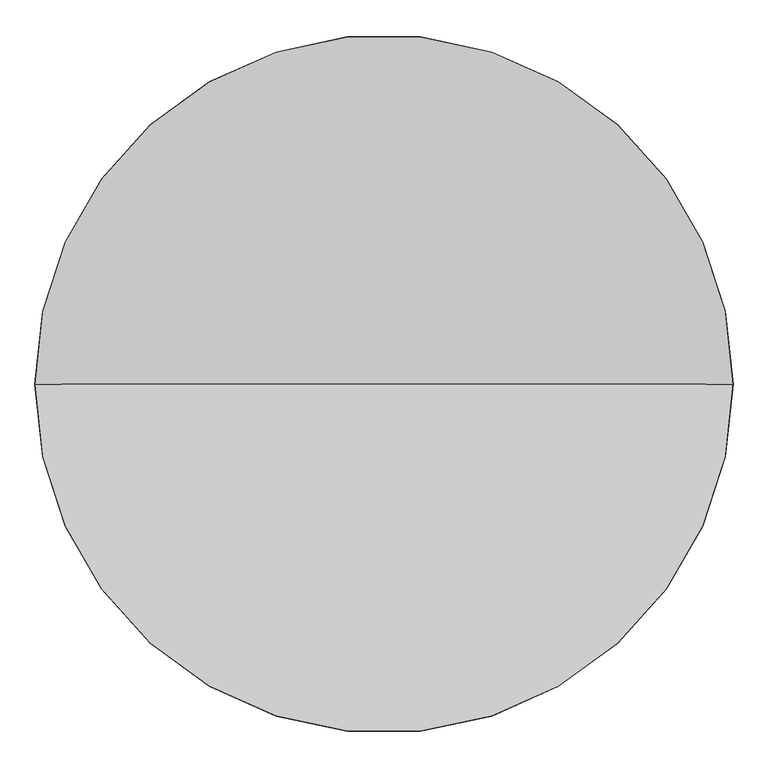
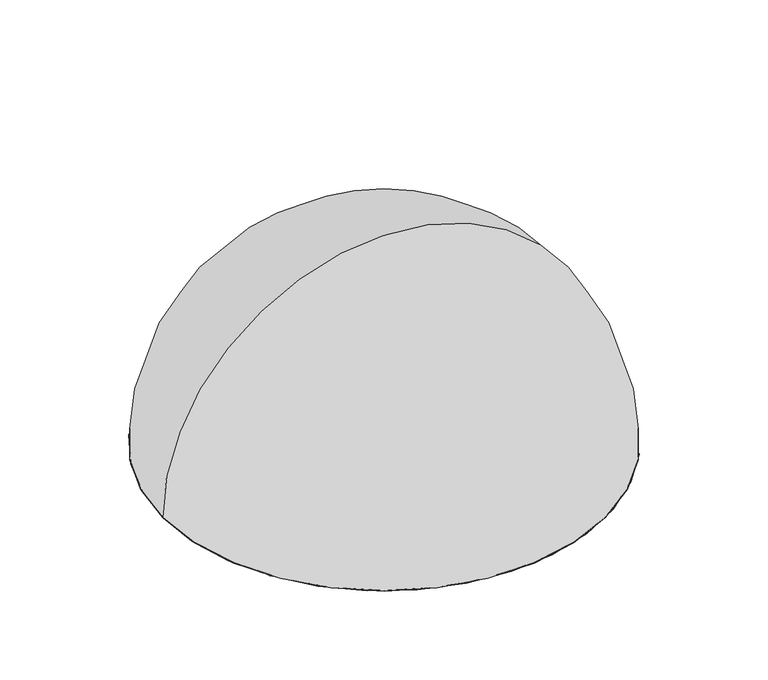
"""IFC4 building model written with IfcOpenShell, lengths in millimetres: alarm geometry, 4400I_Analog Multi Detector : 4400I-B_4479-B."""

from ifc_helpers import new_model, si_unit, point, frame, origin, origin_with_axes, origin_2d, place, context, project, spatial, polyline, circle_curve, ellipse_curve, trimmed, segment, composite_curve, outline, extrude, source, transform, mapped, element, save
from ifc_brep_helpers import plane_surface, cylinder_surface, revolved_surface, advanced_brep


def alarm_875a3fe6(model_context):
    return source(origin(), model_context, "Body", "SolidModel", [
        advanced_brep(
        [(-79.7972229, 5.5486659, 14.485042), (-79.7972229, 5.5486659, 25.4), (-78.2027771, 5.5486659, 25.4), (-78.2027771, 5.5486659, 14.485042), (-79.7972229, 10.5486659, 14.485042), (-79.7972229, 10.5486659, 25.4), (-78.2027771, 10.5486659, 25.4), (-78.2027771, 10.5486659, 14.485042), (-79.7972229, 15.5486659, 14.485042), (-79.7972229, 15.5486659, 25.4), (-78.2027771, 15.5486659, 25.4), (-78.2027771, 15.5486659, 14.485042), (-84.7972229, 3.0470544, 14.485042), (-84.7972229, 3.0470544, 25.4), (-83.2027771, 3.0470544, 25.4), (-83.2027771, 3.0470544, 14.485042), (-85.4222229, 8.9861659, 14.485042), (-85.4222229, 8.9861659, 25.4), (-83.8277771, 8.9861659, 25.4), (-83.8277771, 8.9861659, 14.485042), (-88.9577568, 5.450632, 14.485042), (-88.9577568, 5.450632, 25.4), (-87.363311, 5.450632, 25.4), (-87.363311, 5.450632, 14.485042), (-83.5688125, 14.8836329, 14.485042), (-83.5688125, 14.8836329, 25.4), (-85.0671014, 14.3383003, 25.4), (-85.0671014, 14.3383003, 14.485042), (-89.6051979, 11.3985241, 14.485042), (-89.6051979, 11.3985241, 25.4), (-88.3837816, 12.4234141, 25.4), (-88.3837816, 12.4234141, 14.485042), (-92.0669282, 8.4647482, 14.485042), (-92.0669282, 8.4647482, 25.4), (-92.8641511, 7.0839177, 25.4), (-92.8641511, 7.0839177, 14.485042), (-94.450883, 1.9148862, 14.485042), (-94.450883, 1.9148862, 25.4), (-94.1740104, 3.4851087, 25.4), (-94.1740104, 3.4851087, 14.485042), (-94.1740104, -3.4851087, 14.485042), (-94.1740104, -3.4851087, 25.4), (-94.450883, -1.9148862, 25.4), (-94.450883, -1.9148862, 14.485042), (-89.5486659, 0.7972229, 14.485042), (-89.5486659, 0.7972229, 25.4), (-90.3458887, 0.0, 25.4), (-89.5486659, -0.7972229, 25.4), (-89.5486659, -0.7972229, 14.485042), (-90.3458887, 0.0, 14.485042), (-88.751443, 0.0, 14.485042), (-88.751443, 0.0, 25.4), (-88.534024, -4.5839177, 14.485042), (-88.534024, -4.5839177, 25.4), (-87.7368012, -5.9647482, 25.4), (-87.7368012, -5.9647482, 14.485042), (-83.4066742, -3.4647482, 14.485042), (-83.4066742, -3.4647482, 25.4), (-84.203897, -2.0839177, 25.4), (-84.203897, -2.0839177, 14.485042), (-73.796103, 2.0839177, 14.485042), (-73.796103, 2.0839177, 25.4), (-74.5933258, 3.4647482, 25.4), (-74.5933258, 3.4647482, 14.485042), (-73.0352518, 8.7368012, 14.485042), (-73.0352518, 8.7368012, 25.4), (-74.4160823, 9.534024, 25.4), (-74.4160823, 9.534024, 14.485042), (-72.9328986, 14.3383003, 14.485042), (-72.9328986, 14.3383003, 25.4), (-74.4311875, 14.8836329, 25.4), (-74.4311875, 14.8836329, 14.485042), (-69.6162184, 12.4234141, 14.485042), (-69.6162184, 12.4234141, 25.4), (-68.3948021, 11.3985241, 25.4), (-68.3948021, 11.3985241, 14.485042), (-65.9330718, 8.4647482, 14.485042), (-65.9330718, 8.4647482, 25.4), (-65.1358489, 7.0839177, 25.4), (-65.1358489, 7.0839177, 14.485042), (-69.465976, 4.5839177, 14.485042), (-69.465976, 4.5839177, 25.4), (-70.2631988, 5.9647482, 25.4), (-70.2631988, 5.9647482, 14.485042), (-63.549117, 1.9148862, 14.485042), (-63.549117, 1.9148862, 25.4), (-63.8259896, 3.4851087, 25.4), (-63.8259896, 3.4851087, 14.485042), (-63.8259896, -3.4851087, 14.485042), (-63.8259896, -3.4851087, 25.4), (-63.549117, -1.9148862, 25.4), (-63.549117, -1.9148862, 14.485042), (-68.4513341, 0.7972229, 14.485042), (-68.4513341, 0.7972229, 25.4), (-69.248557, 0.0, 25.4), (-68.4513341, -0.7972229, 25.4), (-68.4513341, -0.7972229, 14.485042), (-69.248557, 0.0, 14.485042), (-67.6541113, 0.0, 14.485042), (-67.6541113, 0.0, 25.4), (-74.5933258, -3.4647482, 14.485042), (-74.5933258, -3.4647482, 25.4), (-73.796103, -2.0839177, 25.4), (-73.796103, -2.0839177, 14.485042), (-78.2027771, -5.5486659, 14.485042), (-78.2027771, -5.5486659, 25.4), (-79.7972229, -5.5486659, 25.4), (-79.7972229, -5.5486659, 14.485042), (-78.2027771, -10.5486659, 14.485042), (-78.2027771, -10.5486659, 25.4), (-79.7972229, -10.5486659, 25.4), (-79.7972229, -10.5486659, 14.485042), (-74.4160823, -9.534024, 14.485042), (-74.4160823, -9.534024, 25.4), (-73.0352518, -8.7368012, 25.4), (-73.0352518, -8.7368012, 14.485042), (-70.2631988, -5.9647482, 14.485042), (-70.2631988, -5.9647482, 25.4), (-69.465976, -4.5839177, 25.4), (-69.465976, -4.5839177, 14.485042), (-65.9330718, -8.4647482, 14.485042), (-65.9330718, -8.4647482, 25.4), (-65.1358489, -7.0839177, 25.4), (-65.1358489, -7.0839177, 14.485042), (-68.3948021, -11.3985241, 14.485042), (-68.3948021, -11.3985241, 25.4), (-69.6162184, -12.4234141, 25.4), (-69.6162184, -12.4234141, 14.485042), (-72.9328986, -14.3383003, 14.485042), (-72.9328986, -14.3383003, 25.4), (-74.4311875, -14.8836329, 25.4), (-74.4311875, -14.8836329, 14.485042), (-79.7972229, -15.5486659, 14.485042), (-79.7972229, -15.5486659, 25.4), (-78.2027771, -15.5486659, 25.4), (-78.2027771, -15.5486659, 14.485042), (-83.5688125, -14.8836329, 14.485042), (-83.5688125, -14.8836329, 25.4), (-85.0671014, -14.3383003, 25.4), (-85.0671014, -14.3383003, 14.485042), (-88.3837816, -12.4234141, 14.485042), (-88.3837816, -12.4234141, 25.4), (-89.6051979, -11.3985241, 25.4), (-89.6051979, -11.3985241, 14.485042), (-83.5839177, -9.534024, 14.485042), (-83.5839177, -9.534024, 25.4), (-84.9647482, -8.7368012, 25.4), (-84.9647482, -8.7368012, 14.485042), (-92.8641511, -7.0839177, 14.485042), (-92.8641511, -7.0839177, 25.4), (-92.0669282, -8.4647482, 25.4), (-92.0669282, -8.4647482, 14.485042), (-108.6698498, 0.0, 16.3482569), (-49.3301502, 0.0, 16.3482569), (-49.0, 0.0, 15.6238085), (-109.0, 0.0, 15.6238085), (-106.6202954, 0.0, 18.1299074), (-51.3797046, 0.0, 18.1299074), (-106.2752145, 0.0, 18.8871183), (-51.7247855, 0.0, 18.8871183), (-106.2752145, 0.0, 22.8474655), (-51.7247855, 0.0, 22.8474655), (-109.0, 0.0, 14.485042), (-49.0, 0.0, 14.485042), (-79.0, 0.0, 14.485042), (-105.8495388, 0.0, 23.4500663), (-52.1504612, 0.0, 23.4500663), (-96.200061, 0.0, 25.4), (-61.799939, 0.0, 25.4), (-79.0, 0.0, 25.4)],
        [
            (0, 1),
            (1, 2, circle_curve(frame((-79.0, 5.5486659, 25.4), z_axis=(0.0, 0.0, 1.0), x_axis=(1.0, 0.0, 0.0)), 0.7972229)),
            (2, 3),
            (3, 0, circle_curve(frame((-79.0, 5.5486659, 14.485042), z_axis=(0.0, 0.0, -1.0), x_axis=(1.0, 0.0, 0.0)), 0.7972229)),
            (0, 3, circle_curve(frame((-79.0, 5.5486659, 14.485042), z_axis=(0.0, 0.0, -1.0), x_axis=(1.0, 0.0, 0.0)), 0.7972229)),
            (2, 1, circle_curve(frame((-79.0, 5.5486659, 25.4), z_axis=(0.0, 0.0, 1.0), x_axis=(1.0, 0.0, 0.0)), 0.7972229)),
            (4, 5),
            (5, 6, circle_curve(frame((-79.0, 10.5486659, 25.4), z_axis=(0.0, 0.0, 1.0), x_axis=(1.0, 0.0, 0.0)), 0.7972229)),
            (6, 7),
            (7, 4, circle_curve(frame((-79.0, 10.5486659, 14.485042), z_axis=(0.0, 0.0, -1.0), x_axis=(1.0, 0.0, 0.0)), 0.7972229)),
            (4, 7, circle_curve(frame((-79.0, 10.5486659, 14.485042), z_axis=(0.0, 0.0, -1.0), x_axis=(1.0, 0.0, 0.0)), 0.7972229)),
            (6, 5, circle_curve(frame((-79.0, 10.5486659, 25.4), z_axis=(0.0, 0.0, 1.0), x_axis=(1.0, 0.0, 0.0)), 0.7972229)),
            (8, 9),
            (9, 10, circle_curve(frame((-79.0, 15.5486659, 25.4), z_axis=(0.0, 0.0, 1.0), x_axis=(1.0, 0.0, 0.0)), 0.7972229)),
            (10, 11),
            (11, 8, circle_curve(frame((-79.0, 15.5486659, 14.485042), z_axis=(0.0, 0.0, -1.0), x_axis=(1.0, 0.0, 0.0)), 0.7972229)),
            (8, 11, circle_curve(frame((-79.0, 15.5486659, 14.485042), z_axis=(0.0, 0.0, -1.0), x_axis=(1.0, 0.0, 0.0)), 0.7972229)),
            (10, 9, circle_curve(frame((-79.0, 15.5486659, 25.4), z_axis=(0.0, 0.0, 1.0), x_axis=(1.0, 0.0, 0.0)), 0.7972229)),
            (12, 13),
            (13, 14, circle_curve(frame((-84.0, 3.0470544, 25.4), z_axis=(0.0, 0.0, 1.0), x_axis=(1.0, 0.0, 0.0)), 0.7972229)),
            (14, 15),
            (15, 12, circle_curve(frame((-84.0, 3.0470544, 14.485042), z_axis=(0.0, 0.0, -1.0), x_axis=(1.0, 0.0, 0.0)), 0.7972229)),
            (12, 15, circle_curve(frame((-84.0, 3.0470544, 14.485042), z_axis=(0.0, 0.0, -1.0), x_axis=(1.0, 0.0, 0.0)), 0.7972229)),
            (14, 13, circle_curve(frame((-84.0, 3.0470544, 25.4), z_axis=(0.0, 0.0, 1.0), x_axis=(1.0, 0.0, 0.0)), 0.7972229)),
            (16, 17),
            (17, 18, circle_curve(frame((-84.625, 8.9861659, 25.4), z_axis=(0.0, 0.0, 1.0), x_axis=(1.0, 0.0, 0.0)), 0.7972229)),
            (18, 19),
            (19, 16, circle_curve(frame((-84.625, 8.9861659, 14.485042), z_axis=(0.0, 0.0, -1.0), x_axis=(1.0, 0.0, 0.0)), 0.7972229)),
            (16, 19, circle_curve(frame((-84.625, 8.9861659, 14.485042), z_axis=(0.0, 0.0, -1.0), x_axis=(1.0, 0.0, 0.0)), 0.7972229)),
            (18, 17, circle_curve(frame((-84.625, 8.9861659, 25.4), z_axis=(0.0, 0.0, 1.0), x_axis=(1.0, 0.0, 0.0)), 0.7972229)),
            (20, 21),
            (21, 22, circle_curve(frame((-88.1605339, 5.450632, 25.4), z_axis=(0.0, 0.0, 1.0), x_axis=(1.0, 0.0, 0.0)), 0.7972229)),
            (22, 23),
            (23, 20, circle_curve(frame((-88.1605339, 5.450632, 14.485042), z_axis=(0.0, 0.0, -1.0), x_axis=(1.0, 0.0, 0.0)), 0.7972229)),
            (20, 23, circle_curve(frame((-88.1605339, 5.450632, 14.485042), z_axis=(0.0, 0.0, -1.0), x_axis=(1.0, 0.0, 0.0)), 0.7972229)),
            (22, 21, circle_curve(frame((-88.1605339, 5.450632, 25.4), z_axis=(0.0, 0.0, 1.0), x_axis=(1.0, 0.0, 0.0)), 0.7972229)),
            (24, 25),
            (25, 26, circle_curve(frame((-84.3179569, 14.6109666, 25.4), z_axis=(0.0, 0.0, 1.0), x_axis=(1.0, 0.0, 0.0)), 0.7972229)),
            (26, 27),
            (27, 24, circle_curve(frame((-84.3179569, 14.6109666, 14.485042), z_axis=(0.0, 0.0, -1.0), x_axis=(1.0, 0.0, 0.0)), 0.7972229)),
            (24, 27, circle_curve(frame((-84.3179569, 14.6109666, 14.485042), z_axis=(0.0, 0.0, -1.0), x_axis=(1.0, 0.0, 0.0)), 0.7972229)),
            (26, 25, circle_curve(frame((-84.3179569, 14.6109666, 25.4), z_axis=(0.0, 0.0, 1.0), x_axis=(1.0, 0.0, 0.0)), 0.7972229)),
            (28, 29),
            (29, 30, circle_curve(frame((-88.9944898, 11.9109691, 25.4), z_axis=(0.0, 0.0, 1.0), x_axis=(1.0, 0.0, 0.0)), 0.7972229)),
            (30, 31),
            (31, 28, circle_curve(frame((-88.9944898, 11.9109691, 14.485042), z_axis=(0.0, 0.0, -1.0), x_axis=(1.0, 0.0, 0.0)), 0.7972229)),
            (28, 31, circle_curve(frame((-88.9944898, 11.9109691, 14.485042), z_axis=(0.0, 0.0, -1.0), x_axis=(1.0, 0.0, 0.0)), 0.7972229)),
            (30, 29, circle_curve(frame((-88.9944898, 11.9109691, 25.4), z_axis=(0.0, 0.0, 1.0), x_axis=(1.0, 0.0, 0.0)), 0.7972229)),
            (32, 33),
            (33, 34, circle_curve(frame((-92.4655396, 7.7743329, 25.4), z_axis=(0.0, 0.0, 1.0), x_axis=(1.0, 0.0, 0.0)), 0.7972229)),
            (34, 35),
            (35, 32, circle_curve(frame((-92.4655396, 7.7743329, 14.485042), z_axis=(0.0, 0.0, -1.0), x_axis=(1.0, 0.0, 0.0)), 0.7972229)),
            (32, 35, circle_curve(frame((-92.4655396, 7.7743329, 14.485042), z_axis=(0.0, 0.0, -1.0), x_axis=(1.0, 0.0, 0.0)), 0.7972229)),
            (34, 33, circle_curve(frame((-92.4655396, 7.7743329, 25.4), z_axis=(0.0, 0.0, 1.0), x_axis=(1.0, 0.0, 0.0)), 0.7972229)),
            (36, 37),
            (37, 38, circle_curve(frame((-94.3124467, 2.6999975, 25.4), z_axis=(0.0, 0.0, 1.0), x_axis=(1.0, 0.0, 0.0)), 0.7972229)),
            (38, 39),
            (39, 36, circle_curve(frame((-94.3124467, 2.6999975, 14.485042), z_axis=(0.0, 0.0, -1.0), x_axis=(1.0, 0.0, 0.0)), 0.7972229)),
            (36, 39, circle_curve(frame((-94.3124467, 2.6999975, 14.485042), z_axis=(0.0, 0.0, -1.0), x_axis=(1.0, 0.0, 0.0)), 0.7972229)),
            (38, 37, circle_curve(frame((-94.3124467, 2.6999975, 25.4), z_axis=(0.0, 0.0, 1.0), x_axis=(1.0, 0.0, 0.0)), 0.7972229)),
            (40, 41),
            (41, 42, circle_curve(frame((-94.3124467, -2.6999975, 25.4), z_axis=(0.0, 0.0, 1.0), x_axis=(1.0, 0.0, 0.0)), 0.7972229)),
            (42, 43),
            (43, 40, circle_curve(frame((-94.3124467, -2.6999975, 14.485042), z_axis=(0.0, 0.0, -1.0), x_axis=(1.0, 0.0, 0.0)), 0.7972229)),
            (40, 43, circle_curve(frame((-94.3124467, -2.6999975, 14.485042), z_axis=(0.0, 0.0, -1.0), x_axis=(1.0, 0.0, 0.0)), 0.7972229)),
            (42, 41, circle_curve(frame((-94.3124467, -2.6999975, 25.4), z_axis=(0.0, 0.0, 1.0), x_axis=(1.0, 0.0, 0.0)), 0.7972229)),
            (44, 45),
            (45, 46, circle_curve(frame((-89.5486659, 0.0, 25.4), z_axis=(0.0, 0.0, 1.0), x_axis=(1.0, 0.0, 0.0)), 0.7972229)),
            (46, 47, circle_curve(frame((-89.5486659, 0.0, 25.4), z_axis=(0.0, 0.0, 1.0), x_axis=(1.0, 0.0, 0.0)), 0.7972229)),
            (47, 48),
            (48, 49, circle_curve(frame((-89.5486659, 0.0, 14.485042), z_axis=(0.0, 0.0, -1.0), x_axis=(1.0, 0.0, 0.0)), 0.7972229)),
            (49, 44, circle_curve(frame((-89.5486659, 0.0, 14.485042), z_axis=(0.0, 0.0, -1.0), x_axis=(1.0, 0.0, 0.0)), 0.7972229)),
            (44, 50, circle_curve(frame((-89.5486659, 0.0, 14.485042), z_axis=(0.0, 0.0, -1.0), x_axis=(1.0, 0.0, 0.0)), 0.7972229)),
            (50, 48, circle_curve(frame((-89.5486659, 0.0, 14.485042), z_axis=(0.0, 0.0, -1.0), x_axis=(1.0, 0.0, 0.0)), 0.7972229)),
            (47, 51, circle_curve(frame((-89.5486659, 0.0, 25.4), z_axis=(0.0, 0.0, 1.0), x_axis=(1.0, 0.0, 0.0)), 0.7972229)),
            (51, 45, circle_curve(frame((-89.5486659, 0.0, 25.4), z_axis=(0.0, 0.0, 1.0), x_axis=(1.0, 0.0, 0.0)), 0.7972229)),
            (52, 53),
            (53, 54, circle_curve(frame((-88.1354126, -5.2743329, 25.4), z_axis=(0.0, 0.0, 1.0), x_axis=(1.0, 0.0, 0.0)), 0.7972229)),
            (54, 55),
            (55, 52, circle_curve(frame((-88.1354126, -5.2743329, 14.485042), z_axis=(0.0, 0.0, -1.0), x_axis=(1.0, 0.0, 0.0)), 0.7972229)),
            (52, 55, circle_curve(frame((-88.1354126, -5.2743329, 14.485042), z_axis=(0.0, 0.0, -1.0), x_axis=(1.0, 0.0, 0.0)), 0.7972229)),
            (54, 53, circle_curve(frame((-88.1354126, -5.2743329, 25.4), z_axis=(0.0, 0.0, 1.0), x_axis=(1.0, 0.0, 0.0)), 0.7972229)),
            (56, 57),
            (57, 58, circle_curve(frame((-83.8052856, -2.7743329, 25.4), z_axis=(0.0, 0.0, 1.0), x_axis=(1.0, 0.0, 0.0)), 0.7972229)),
            (58, 59),
            (59, 56, circle_curve(frame((-83.8052856, -2.7743329, 14.485042), z_axis=(0.0, 0.0, -1.0), x_axis=(1.0, 0.0, 0.0)), 0.7972229)),
            (56, 59, circle_curve(frame((-83.8052856, -2.7743329, 14.485042), z_axis=(0.0, 0.0, -1.0), x_axis=(1.0, 0.0, 0.0)), 0.7972229)),
            (58, 57, circle_curve(frame((-83.8052856, -2.7743329, 25.4), z_axis=(0.0, 0.0, 1.0), x_axis=(1.0, 0.0, 0.0)), 0.7972229)),
            (60, 61),
            (61, 62, circle_curve(frame((-74.1947144, 2.7743329, 25.4), z_axis=(0.0, 0.0, 1.0), x_axis=(1.0, 0.0, 0.0)), 0.7972229)),
            (62, 63),
            (63, 60, circle_curve(frame((-74.1947144, 2.7743329, 14.485042), z_axis=(0.0, 0.0, -1.0), x_axis=(1.0, 0.0, 0.0)), 0.7972229)),
            (60, 63, circle_curve(frame((-74.1947144, 2.7743329, 14.485042), z_axis=(0.0, 0.0, -1.0), x_axis=(1.0, 0.0, 0.0)), 0.7972229)),
            (62, 61, circle_curve(frame((-74.1947144, 2.7743329, 25.4), z_axis=(0.0, 0.0, 1.0), x_axis=(1.0, 0.0, 0.0)), 0.7972229)),
            (64, 65),
            (65, 66, circle_curve(frame((-73.7256671, 9.1354126, 25.4), z_axis=(0.0, 0.0, 1.0), x_axis=(1.0, 0.0, 0.0)), 0.7972229)),
            (66, 67),
            (67, 64, circle_curve(frame((-73.7256671, 9.1354126, 14.485042), z_axis=(0.0, 0.0, -1.0), x_axis=(1.0, 0.0, 0.0)), 0.7972229)),
            (64, 67, circle_curve(frame((-73.7256671, 9.1354126, 14.485042), z_axis=(0.0, 0.0, -1.0), x_axis=(1.0, 0.0, 0.0)), 0.7972229)),
            (66, 65, circle_curve(frame((-73.7256671, 9.1354126, 25.4), z_axis=(0.0, 0.0, 1.0), x_axis=(1.0, 0.0, 0.0)), 0.7972229)),
            (68, 69),
            (69, 70, circle_curve(frame((-73.6820431, 14.6109666, 25.4), z_axis=(0.0, 0.0, 1.0), x_axis=(1.0, 0.0, 0.0)), 0.7972229)),
            (70, 71),
            (71, 68, circle_curve(frame((-73.6820431, 14.6109666, 14.485042), z_axis=(0.0, 0.0, -1.0), x_axis=(1.0, 0.0, 0.0)), 0.7972229)),
            (68, 71, circle_curve(frame((-73.6820431, 14.6109666, 14.485042), z_axis=(0.0, 0.0, -1.0), x_axis=(1.0, 0.0, 0.0)), 0.7972229)),
            (70, 69, circle_curve(frame((-73.6820431, 14.6109666, 25.4), z_axis=(0.0, 0.0, 1.0), x_axis=(1.0, 0.0, 0.0)), 0.7972229)),
            (72, 73),
            (73, 74, circle_curve(frame((-69.0055102, 11.9109691, 25.4), z_axis=(0.0, 0.0, 1.0), x_axis=(1.0, 0.0, 0.0)), 0.7972229)),
            (74, 75),
            (75, 72, circle_curve(frame((-69.0055102, 11.9109691, 14.485042), z_axis=(0.0, 0.0, -1.0), x_axis=(1.0, 0.0, 0.0)), 0.7972229)),
            (72, 75, circle_curve(frame((-69.0055102, 11.9109691, 14.485042), z_axis=(0.0, 0.0, -1.0), x_axis=(1.0, 0.0, 0.0)), 0.7972229)),
            (74, 73, circle_curve(frame((-69.0055102, 11.9109691, 25.4), z_axis=(0.0, 0.0, 1.0), x_axis=(1.0, 0.0, 0.0)), 0.7972229)),
            (76, 77),
            (77, 78, circle_curve(frame((-65.5344604, 7.7743329, 25.4), z_axis=(0.0, 0.0, 1.0), x_axis=(1.0, 0.0, 0.0)), 0.7972229)),
            (78, 79),
            (79, 76, circle_curve(frame((-65.5344604, 7.7743329, 14.485042), z_axis=(0.0, 0.0, -1.0), x_axis=(1.0, 0.0, 0.0)), 0.7972229)),
            (76, 79, circle_curve(frame((-65.5344604, 7.7743329, 14.485042), z_axis=(0.0, 0.0, -1.0), x_axis=(1.0, 0.0, 0.0)), 0.7972229)),
            (78, 77, circle_curve(frame((-65.5344604, 7.7743329, 25.4), z_axis=(0.0, 0.0, 1.0), x_axis=(1.0, 0.0, 0.0)), 0.7972229)),
            (80, 81),
            (81, 82, circle_curve(frame((-69.8645874, 5.2743329, 25.4), z_axis=(0.0, 0.0, 1.0), x_axis=(1.0, 0.0, 0.0)), 0.7972229)),
            (82, 83),
            (83, 80, circle_curve(frame((-69.8645874, 5.2743329, 14.485042), z_axis=(0.0, 0.0, -1.0), x_axis=(1.0, 0.0, 0.0)), 0.7972229)),
            (80, 83, circle_curve(frame((-69.8645874, 5.2743329, 14.485042), z_axis=(0.0, 0.0, -1.0), x_axis=(1.0, 0.0, 0.0)), 0.7972229)),
            (82, 81, circle_curve(frame((-69.8645874, 5.2743329, 25.4), z_axis=(0.0, 0.0, 1.0), x_axis=(1.0, 0.0, 0.0)), 0.7972229)),
            (84, 85),
            (85, 86, circle_curve(frame((-63.6875533, 2.6999975, 25.4), z_axis=(0.0, 0.0, 1.0), x_axis=(1.0, 0.0, 0.0)), 0.7972229)),
            (86, 87),
            (87, 84, circle_curve(frame((-63.6875533, 2.6999975, 14.485042), z_axis=(0.0, 0.0, -1.0), x_axis=(1.0, 0.0, 0.0)), 0.7972229)),
            (84, 87, circle_curve(frame((-63.6875533, 2.6999975, 14.485042), z_axis=(0.0, 0.0, -1.0), x_axis=(1.0, 0.0, 0.0)), 0.7972229)),
            (86, 85, circle_curve(frame((-63.6875533, 2.6999975, 25.4), z_axis=(0.0, 0.0, 1.0), x_axis=(1.0, 0.0, 0.0)), 0.7972229)),
            (88, 89),
            (89, 90, circle_curve(frame((-63.6875533, -2.6999975, 25.4), z_axis=(0.0, 0.0, 1.0), x_axis=(1.0, 0.0, 0.0)), 0.7972229)),
            (90, 91),
            (91, 88, circle_curve(frame((-63.6875533, -2.6999975, 14.485042), z_axis=(0.0, 0.0, -1.0), x_axis=(1.0, 0.0, 0.0)), 0.7972229)),
            (88, 91, circle_curve(frame((-63.6875533, -2.6999975, 14.485042), z_axis=(0.0, 0.0, -1.0), x_axis=(1.0, 0.0, 0.0)), 0.7972229)),
            (90, 89, circle_curve(frame((-63.6875533, -2.6999975, 25.4), z_axis=(0.0, 0.0, 1.0), x_axis=(1.0, 0.0, 0.0)), 0.7972229)),
            (92, 93),
            (93, 94, circle_curve(frame((-68.4513341, 0.0, 25.4), z_axis=(0.0, 0.0, 1.0), x_axis=(1.0, 0.0, 0.0)), 0.7972229)),
            (94, 95, circle_curve(frame((-68.4513341, 0.0, 25.4), z_axis=(0.0, 0.0, 1.0), x_axis=(1.0, 0.0, 0.0)), 0.7972229)),
            (95, 96),
            (96, 97, circle_curve(frame((-68.4513341, 0.0, 14.485042), z_axis=(0.0, 0.0, -1.0), x_axis=(1.0, 0.0, 0.0)), 0.7972229)),
            (97, 92, circle_curve(frame((-68.4513341, 0.0, 14.485042), z_axis=(0.0, 0.0, -1.0), x_axis=(1.0, 0.0, 0.0)), 0.7972229)),
            (92, 98, circle_curve(frame((-68.4513341, 0.0, 14.485042), z_axis=(0.0, 0.0, -1.0), x_axis=(1.0, 0.0, 0.0)), 0.7972229)),
            (98, 96, circle_curve(frame((-68.4513341, 0.0, 14.485042), z_axis=(0.0, 0.0, -1.0), x_axis=(1.0, 0.0, 0.0)), 0.7972229)),
            (95, 99, circle_curve(frame((-68.4513341, 0.0, 25.4), z_axis=(0.0, 0.0, 1.0), x_axis=(1.0, 0.0, 0.0)), 0.7972229)),
            (99, 93, circle_curve(frame((-68.4513341, 0.0, 25.4), z_axis=(0.0, 0.0, 1.0), x_axis=(1.0, 0.0, 0.0)), 0.7972229)),
            (100, 101),
            (101, 102, circle_curve(frame((-74.1947144, -2.7743329, 25.4), z_axis=(0.0, 0.0, 1.0), x_axis=(1.0, 0.0, 0.0)), 0.7972229)),
            (102, 103),
            (103, 100, circle_curve(frame((-74.1947144, -2.7743329, 14.485042), z_axis=(0.0, 0.0, -1.0), x_axis=(1.0, 0.0, 0.0)), 0.7972229)),
            (100, 103, circle_curve(frame((-74.1947144, -2.7743329, 14.485042), z_axis=(0.0, 0.0, -1.0), x_axis=(1.0, 0.0, 0.0)), 0.7972229)),
            (102, 101, circle_curve(frame((-74.1947144, -2.7743329, 25.4), z_axis=(0.0, 0.0, 1.0), x_axis=(1.0, 0.0, 0.0)), 0.7972229)),
            (104, 105),
            (105, 106, circle_curve(frame((-79.0, -5.5486659, 25.4), z_axis=(0.0, 0.0, 1.0), x_axis=(1.0, 0.0, 0.0)), 0.7972229)),
            (106, 107),
            (107, 104, circle_curve(frame((-79.0, -5.5486659, 14.485042), z_axis=(0.0, 0.0, -1.0), x_axis=(1.0, 0.0, 0.0)), 0.7972229)),
            (104, 107, circle_curve(frame((-79.0, -5.5486659, 14.485042), z_axis=(0.0, 0.0, -1.0), x_axis=(1.0, 0.0, 0.0)), 0.7972229)),
            (106, 105, circle_curve(frame((-79.0, -5.5486659, 25.4), z_axis=(0.0, 0.0, 1.0), x_axis=(1.0, 0.0, 0.0)), 0.7972229)),
            (108, 109),
            (109, 110, circle_curve(frame((-79.0, -10.5486659, 25.4), z_axis=(0.0, 0.0, 1.0), x_axis=(1.0, 0.0, 0.0)), 0.7972229)),
            (110, 111),
            (111, 108, circle_curve(frame((-79.0, -10.5486659, 14.485042), z_axis=(0.0, 0.0, -1.0), x_axis=(1.0, 0.0, 0.0)), 0.7972229)),
            (108, 111, circle_curve(frame((-79.0, -10.5486659, 14.485042), z_axis=(0.0, 0.0, -1.0), x_axis=(1.0, 0.0, 0.0)), 0.7972229)),
            (110, 109, circle_curve(frame((-79.0, -10.5486659, 25.4), z_axis=(0.0, 0.0, 1.0), x_axis=(1.0, 0.0, 0.0)), 0.7972229)),
            (112, 113),
            (113, 114, circle_curve(frame((-73.7256671, -9.1354126, 25.4), z_axis=(0.0, 0.0, 1.0), x_axis=(1.0, 0.0, 0.0)), 0.7972229)),
            (114, 115),
            (115, 112, circle_curve(frame((-73.7256671, -9.1354126, 14.485042), z_axis=(0.0, 0.0, -1.0), x_axis=(1.0, 0.0, 0.0)), 0.7972229)),
            (112, 115, circle_curve(frame((-73.7256671, -9.1354126, 14.485042), z_axis=(0.0, 0.0, -1.0), x_axis=(1.0, 0.0, 0.0)), 0.7972229)),
            (114, 113, circle_curve(frame((-73.7256671, -9.1354126, 25.4), z_axis=(0.0, 0.0, 1.0), x_axis=(1.0, 0.0, 0.0)), 0.7972229)),
            (116, 117),
            (117, 118, circle_curve(frame((-69.8645874, -5.2743329, 25.4), z_axis=(0.0, 0.0, 1.0), x_axis=(1.0, 0.0, 0.0)), 0.7972229)),
            (118, 119),
            (119, 116, circle_curve(frame((-69.8645874, -5.2743329, 14.485042), z_axis=(0.0, 0.0, -1.0), x_axis=(1.0, 0.0, 0.0)), 0.7972229)),
            (116, 119, circle_curve(frame((-69.8645874, -5.2743329, 14.485042), z_axis=(0.0, 0.0, -1.0), x_axis=(1.0, 0.0, 0.0)), 0.7972229)),
            (118, 117, circle_curve(frame((-69.8645874, -5.2743329, 25.4), z_axis=(0.0, 0.0, 1.0), x_axis=(1.0, 0.0, 0.0)), 0.7972229)),
            (120, 121),
            (121, 122, circle_curve(frame((-65.5344604, -7.7743329, 25.4), z_axis=(0.0, 0.0, 1.0), x_axis=(1.0, 0.0, 0.0)), 0.7972229)),
            (122, 123),
            (123, 120, circle_curve(frame((-65.5344604, -7.7743329, 14.485042), z_axis=(0.0, 0.0, -1.0), x_axis=(1.0, 0.0, 0.0)), 0.7972229)),
            (120, 123, circle_curve(frame((-65.5344604, -7.7743329, 14.485042), z_axis=(0.0, 0.0, -1.0), x_axis=(1.0, 0.0, 0.0)), 0.7972229)),
            (122, 121, circle_curve(frame((-65.5344604, -7.7743329, 25.4), z_axis=(0.0, 0.0, 1.0), x_axis=(1.0, 0.0, 0.0)), 0.7972229)),
            (124, 125),
            (125, 126, circle_curve(frame((-69.0055102, -11.9109691, 25.4), z_axis=(0.0, 0.0, 1.0), x_axis=(1.0, 0.0, 0.0)), 0.7972229)),
            (126, 127),
            (127, 124, circle_curve(frame((-69.0055102, -11.9109691, 14.485042), z_axis=(0.0, 0.0, -1.0), x_axis=(1.0, 0.0, 0.0)), 0.7972229)),
            (124, 127, circle_curve(frame((-69.0055102, -11.9109691, 14.485042), z_axis=(0.0, 0.0, -1.0), x_axis=(1.0, 0.0, 0.0)), 0.7972229)),
            (126, 125, circle_curve(frame((-69.0055102, -11.9109691, 25.4), z_axis=(0.0, 0.0, 1.0), x_axis=(1.0, 0.0, 0.0)), 0.7972229)),
            (128, 129),
            (129, 130, circle_curve(frame((-73.6820431, -14.6109666, 25.4), z_axis=(0.0, 0.0, 1.0), x_axis=(1.0, 0.0, 0.0)), 0.7972229)),
            (130, 131),
            (131, 128, circle_curve(frame((-73.6820431, -14.6109666, 14.485042), z_axis=(0.0, 0.0, -1.0), x_axis=(1.0, 0.0, 0.0)), 0.7972229)),
            (128, 131, circle_curve(frame((-73.6820431, -14.6109666, 14.485042), z_axis=(0.0, 0.0, -1.0), x_axis=(1.0, 0.0, 0.0)), 0.7972229)),
            (130, 129, circle_curve(frame((-73.6820431, -14.6109666, 25.4), z_axis=(0.0, 0.0, 1.0), x_axis=(1.0, 0.0, 0.0)), 0.7972229)),
            (132, 133),
            (133, 134, circle_curve(frame((-79.0, -15.5486659, 25.4), z_axis=(0.0, 0.0, 1.0), x_axis=(1.0, 0.0, 0.0)), 0.7972229)),
            (134, 135),
            (135, 132, circle_curve(frame((-79.0, -15.5486659, 14.485042), z_axis=(0.0, 0.0, -1.0), x_axis=(1.0, 0.0, 0.0)), 0.7972229)),
            (132, 135, circle_curve(frame((-79.0, -15.5486659, 14.485042), z_axis=(0.0, 0.0, -1.0), x_axis=(1.0, 0.0, 0.0)), 0.7972229)),
            (134, 133, circle_curve(frame((-79.0, -15.5486659, 25.4), z_axis=(0.0, 0.0, 1.0), x_axis=(1.0, 0.0, 0.0)), 0.7972229)),
            (136, 137),
            (137, 138, circle_curve(frame((-84.3179569, -14.6109666, 25.4), z_axis=(0.0, 0.0, 1.0), x_axis=(1.0, 0.0, 0.0)), 0.7972229)),
            (138, 139),
            (139, 136, circle_curve(frame((-84.3179569, -14.6109666, 14.485042), z_axis=(0.0, 0.0, -1.0), x_axis=(1.0, 0.0, 0.0)), 0.7972229)),
            (136, 139, circle_curve(frame((-84.3179569, -14.6109666, 14.485042), z_axis=(0.0, 0.0, -1.0), x_axis=(1.0, 0.0, 0.0)), 0.7972229)),
            (138, 137, circle_curve(frame((-84.3179569, -14.6109666, 25.4), z_axis=(0.0, 0.0, 1.0), x_axis=(1.0, 0.0, 0.0)), 0.7972229)),
            (140, 141),
            (141, 142, circle_curve(frame((-88.9944898, -11.9109691, 25.4), z_axis=(0.0, 0.0, 1.0), x_axis=(1.0, 0.0, 0.0)), 0.7972229)),
            (142, 143),
            (143, 140, circle_curve(frame((-88.9944898, -11.9109691, 14.485042), z_axis=(0.0, 0.0, -1.0), x_axis=(1.0, 0.0, 0.0)), 0.7972229)),
            (140, 143, circle_curve(frame((-88.9944898, -11.9109691, 14.485042), z_axis=(0.0, 0.0, -1.0), x_axis=(1.0, 0.0, 0.0)), 0.7972229)),
            (142, 141, circle_curve(frame((-88.9944898, -11.9109691, 25.4), z_axis=(0.0, 0.0, 1.0), x_axis=(1.0, 0.0, 0.0)), 0.7972229)),
            (144, 145),
            (145, 146, circle_curve(frame((-84.2743329, -9.1354126, 25.4), z_axis=(0.0, 0.0, 1.0), x_axis=(1.0, 0.0, 0.0)), 0.7972229)),
            (146, 147),
            (147, 144, circle_curve(frame((-84.2743329, -9.1354126, 14.485042), z_axis=(0.0, 0.0, -1.0), x_axis=(1.0, 0.0, 0.0)), 0.7972229)),
            (144, 147, circle_curve(frame((-84.2743329, -9.1354126, 14.485042), z_axis=(0.0, 0.0, -1.0), x_axis=(1.0, 0.0, 0.0)), 0.7972229)),
            (146, 145, circle_curve(frame((-84.2743329, -9.1354126, 25.4), z_axis=(0.0, 0.0, 1.0), x_axis=(1.0, 0.0, 0.0)), 0.7972229)),
            (148, 149),
            (149, 150, circle_curve(frame((-92.4655396, -7.7743329, 25.4), z_axis=(0.0, 0.0, 1.0), x_axis=(1.0, 0.0, 0.0)), 0.7972229)),
            (150, 151),
            (151, 148, circle_curve(frame((-92.4655396, -7.7743329, 14.485042), z_axis=(0.0, 0.0, -1.0), x_axis=(1.0, 0.0, 0.0)), 0.7972229)),
            (148, 151, circle_curve(frame((-92.4655396, -7.7743329, 14.485042), z_axis=(0.0, 0.0, -1.0), x_axis=(1.0, 0.0, 0.0)), 0.7972229)),
            (150, 149, circle_curve(frame((-92.4655396, -7.7743329, 25.4), z_axis=(0.0, 0.0, 1.0), x_axis=(1.0, 0.0, 0.0)), 0.7972229)),
            (152, 153, circle_curve(frame((-79.0, 0.0, 16.3482569), z_axis=(0.0, 0.0, -1.0), x_axis=(1.0, 0.0, 0.0)), 29.6698498)),
            (153, 154, circle_curve(frame((-49.9599036, 0.0, 15.6238085), z_axis=(0.0, 1.0, 0.0), x_axis=(-1.0, 0.0, 0.0)), 0.9599036)),
            (154, 155, circle_curve(frame((-79.0, 0.0, 15.6238085), z_axis=(0.0, 0.0, 1.0), x_axis=(1.0, 0.0, 0.0)), 30.0)),
            (155, 152, circle_curve(frame((-108.0400964, 0.0, 15.6238085), z_axis=(0.0, 1.0, 0.0), x_axis=(1.0, 0.0, 0.0)), 0.9599036)),
            (153, 152, circle_curve(frame((-79.0, 0.0, 16.3482569), z_axis=(0.0, 0.0, -1.0), x_axis=(1.0, 0.0, 0.0)), 29.6698498)),
            (155, 154, circle_curve(frame((-79.0, 0.0, 15.6238085), z_axis=(0.0, 0.0, 1.0), x_axis=(1.0, 0.0, 0.0)), 30.0)),
            (152, 156),
            (156, 157, circle_curve(frame((-79.0, 0.0, 18.1299074), z_axis=(0.0, 0.0, -1.0), x_axis=(1.0, 0.0, 0.0)), 27.6202954)),
            (157, 153),
            (157, 156, circle_curve(frame((-79.0, 0.0, 18.1299074), z_axis=(0.0, 0.0, -1.0), x_axis=(1.0, 0.0, 0.0)), 27.6202954)),
            (156, 158, circle_curve(frame((-107.2785287, 0.0, 18.8871183), z_axis=(0.0, -1.0, 0.0), x_axis=(1.0, 0.0, 0.0)), 1.0033142)),
            (158, 159, circle_curve(frame((-79.0, 0.0, 18.8871183), z_axis=(0.0, 0.0, -1.0), x_axis=(1.0, 0.0, 0.0)), 27.2752145)),
            (159, 157, circle_curve(frame((-50.7214713, 0.0, 18.8871183), z_axis=(0.0, -1.0, 0.0), x_axis=(-1.0, 0.0, 0.0)), 1.0033142)),
            (159, 158, circle_curve(frame((-79.0, 0.0, 18.8871183), z_axis=(0.0, 0.0, -1.0), x_axis=(1.0, 0.0, 0.0)), 27.2752145)),
            (158, 160),
            (160, 161, circle_curve(frame((-79.0, 0.0, 22.8474655), z_axis=(0.0, 0.0, -1.0), x_axis=(1.0, 0.0, 0.0)), 27.2752145)),
            (161, 159),
            (161, 160, circle_curve(frame((-79.0, 0.0, 22.8474655), z_axis=(0.0, 0.0, -1.0), x_axis=(1.0, 0.0, 0.0)), 27.2752145)),
            (162, 163, circle_curve(frame((-79.0, 0.0, 14.485042), z_axis=(0.0, 0.0, -1.0), x_axis=(1.0, 0.0, 0.0)), 30.0)),
            (163, 98),
            (97, 164),
            (164, 50),
            (49, 162),
            (163, 162, circle_curve(frame((-79.0, 0.0, 14.485042), z_axis=(0.0, 0.0, -1.0), x_axis=(1.0, 0.0, 0.0)), 30.0)),
            (154, 163),
            (162, 155),
            (160, 165, circle_curve(frame((-105.6358457, 0.0, 22.8474655), z_axis=(0.0, 1.0, 0.0), x_axis=(1.0, 0.0, 0.0)), 0.6393688)),
            (165, 166, circle_curve(frame((-79.0, 0.0, 23.4500663), z_axis=(0.0, 0.0, -1.0), x_axis=(1.0, 0.0, 0.0)), 26.8495388)),
            (166, 161, circle_curve(frame((-52.3641543, 0.0, 22.8474655), z_axis=(0.0, 1.0, 0.0), x_axis=(-1.0, 0.0, 0.0)), 0.6393688)),
            (166, 165, circle_curve(frame((-79.0, 0.0, 23.4500663), z_axis=(0.0, 0.0, -1.0), x_axis=(1.0, 0.0, 0.0)), 26.8495388)),
            (165, 167, circle_curve(frame((-94.1752974, 0.0, -9.470542), z_axis=(0.0, 1.0, 0.0), x_axis=(1.0, 0.0, 0.0)), 34.9292766)),
            (167, 168, circle_curve(frame((-79.0, 0.0, 25.4), z_axis=(0.0, 0.0, -1.0), x_axis=(1.0, 0.0, 0.0)), 17.200061)),
            (168, 166, circle_curve(frame((-63.8247026, 0.0, -9.470542), z_axis=(0.0, 1.0, 0.0), x_axis=(-1.0, 0.0, 0.0)), 34.9292766)),
            (168, 167, circle_curve(frame((-79.0, 0.0, 25.4), z_axis=(0.0, 0.0, -1.0), x_axis=(1.0, 0.0, 0.0)), 17.200061)),
            (167, 46),
            (51, 169),
            (169, 94),
            (99, 168),
        ],
        [
            revolved_surface(polyline([(-78.2027771, 5.5486659, 25.4), (-78.2027771, 5.5486659, 14.485042)]), (-79.0, 5.5486659, 12.4608845), (0.0, 0.0, 1.0)),
            revolved_surface(polyline([(-78.2027771, 10.5486659, 25.4), (-78.2027771, 10.5486659, 14.485042)]), (-79.0, 10.5486659, 0.0), (0.0, 0.0, 1.0)),
            revolved_surface(polyline([(-78.2027771, 15.5486659, 25.4), (-78.2027771, 15.5486659, 14.485042)]), (-79.0, 15.5486659, 0.0), (0.0, 0.0, 1.0)),
            revolved_surface(polyline([(-83.2027771, 3.0470544, 25.4), (-83.2027771, 3.0470544, 14.485042)]), (-84.0, 3.0470544, 0.0), (0.0, 0.0, 1.0)),
            revolved_surface(polyline([(-83.8277771, 8.9861659, 25.4), (-83.8277771, 8.9861659, 14.485042)]), (-84.625, 8.9861659, 0.0), (0.0, 0.0, 1.0)),
            revolved_surface(polyline([(-87.36331100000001, 5.450632, 25.4), (-87.36331100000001, 5.450632, 14.485042)]), (-88.1605339, 5.450632, 0.0), (0.0, 0.0, 1.0)),
            revolved_surface(polyline([(-83.520734, 14.6109666, 25.4), (-83.520734, 14.6109666, 14.485042)]), (-84.3179569, 14.6109666, 0.0), (0.0, 0.0, 1.0)),
            revolved_surface(polyline([(-88.1972669, 11.9109691, 25.4), (-88.1972669, 11.9109691, 14.485042)]), (-88.9944898, 11.9109691, 0.0), (0.0, 0.0, 1.0)),
            revolved_surface(polyline([(-91.6683167, 7.7743329, 25.4), (-91.6683167, 7.7743329, 14.485042)]), (-92.4655396, 7.7743329, 0.0), (0.0, 0.0, 1.0)),
            revolved_surface(polyline([(-93.5152238, 2.6999975, 25.4), (-93.5152238, 2.6999975, 14.485042)]), (-94.3124467, 2.6999975, 0.0), (0.0, 0.0, 1.0)),
            revolved_surface(polyline([(-93.5152238, -2.6999975, 25.4), (-93.5152238, -2.6999975, 14.485042)]), (-94.3124467, -2.6999975, 0.0), (0.0, 0.0, 1.0)),
            revolved_surface(polyline([(-88.75144300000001, 0.0, 25.4), (-88.75144300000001, 0.0, 14.485042)]), (-89.5486659, 0.0, 0.0), (0.0, 0.0, 1.0)),
            revolved_surface(polyline([(-87.3381897, -5.2743329, 25.4), (-87.3381897, -5.2743329, 14.485042)]), (-88.1354126, -5.2743329, 0.0), (0.0, 0.0, 1.0)),
            revolved_surface(polyline([(-83.00806270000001, -2.7743329, 25.4), (-83.00806270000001, -2.7743329, 14.485042)]), (-83.8052856, -2.7743329, 0.0), (0.0, 0.0, 1.0)),
            revolved_surface(polyline([(-73.3974915, 2.7743329, 25.4), (-73.3974915, 2.7743329, 14.485042)]), (-74.1947144, 2.7743329, 0.0), (0.0, 0.0, 1.0)),
            revolved_surface(polyline([(-72.9284442, 9.1354126, 25.4), (-72.9284442, 9.1354126, 14.485042)]), (-73.7256671, 9.1354126, 0.0), (0.0, 0.0, 1.0)),
            revolved_surface(polyline([(-72.88482020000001, 14.6109666, 25.4), (-72.88482020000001, 14.6109666, 14.485042)]), (-73.6820431, 14.6109666, 0.0), (0.0, 0.0, 1.0)),
            revolved_surface(polyline([(-68.20828730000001, 11.9109691, 25.4), (-68.20828730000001, 11.9109691, 14.485042)]), (-69.0055102, 11.9109691, 0.0), (0.0, 0.0, 1.0)),
            revolved_surface(polyline([(-64.7372375, 7.7743329, 25.4), (-64.7372375, 7.7743329, 14.485042)]), (-65.5344604, 7.7743329, 0.0), (0.0, 0.0, 1.0)),
            revolved_surface(polyline([(-69.06736450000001, 5.2743329, 25.4), (-69.06736450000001, 5.2743329, 14.485042)]), (-69.8645874, 5.2743329, 0.0), (0.0, 0.0, 1.0)),
            revolved_surface(polyline([(-62.890330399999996, 2.6999975, 25.4), (-62.890330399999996, 2.6999975, 14.485042)]), (-63.6875533, 2.6999975, 0.0), (0.0, 0.0, 1.0)),
            revolved_surface(polyline([(-62.890330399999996, -2.6999975, 25.4), (-62.890330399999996, -2.6999975, 14.485042)]), (-63.6875533, -2.6999975, 0.0), (0.0, 0.0, 1.0)),
            revolved_surface(polyline([(-67.6541112, 0.0, 25.4), (-67.6541112, 0.0, 14.485042)]), (-68.4513341, 0.0, 0.0), (0.0, 0.0, 1.0)),
            revolved_surface(polyline([(-73.3974915, -2.7743329, 25.4), (-73.3974915, -2.7743329, 14.485042)]), (-74.1947144, -2.7743329, 0.0), (0.0, 0.0, 1.0)),
            revolved_surface(polyline([(-78.2027771, -5.5486659, 25.4), (-78.2027771, -5.5486659, 14.485042)]), (-79.0, -5.5486659, 0.0), (0.0, 0.0, 1.0)),
            revolved_surface(polyline([(-78.2027771, -10.5486659, 25.4), (-78.2027771, -10.5486659, 14.485042)]), (-79.0, -10.5486659, 0.0), (0.0, 0.0, 1.0)),
            revolved_surface(polyline([(-72.9284442, -9.1354126, 25.4), (-72.9284442, -9.1354126, 14.485042)]), (-73.7256671, -9.1354126, 0.0), (0.0, 0.0, 1.0)),
            revolved_surface(polyline([(-69.06736450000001, -5.2743329, 25.4), (-69.06736450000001, -5.2743329, 14.485042)]), (-69.8645874, -5.2743329, 0.0), (0.0, 0.0, 1.0)),
            revolved_surface(polyline([(-64.7372375, -7.7743329, 25.4), (-64.7372375, -7.7743329, 14.485042)]), (-65.5344604, -7.7743329, 0.0), (0.0, 0.0, 1.0)),
            revolved_surface(polyline([(-68.20828730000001, -11.9109691, 25.4), (-68.20828730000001, -11.9109691, 14.485042)]), (-69.0055102, -11.9109691, 0.0), (0.0, 0.0, 1.0)),
            revolved_surface(polyline([(-72.88482020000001, -14.6109666, 25.4), (-72.88482020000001, -14.6109666, 14.485042)]), (-73.6820431, -14.6109666, 0.0), (0.0, 0.0, 1.0)),
            revolved_surface(polyline([(-78.2027771, -15.5486659, 25.4), (-78.2027771, -15.5486659, 14.485042)]), (-79.0, -15.5486659, 0.0), (0.0, 0.0, 1.0)),
            revolved_surface(polyline([(-83.520734, -14.6109666, 25.4), (-83.520734, -14.6109666, 14.485042)]), (-84.3179569, -14.6109666, 0.0), (0.0, 0.0, 1.0)),
            revolved_surface(polyline([(-88.1972669, -11.9109691, 25.4), (-88.1972669, -11.9109691, 14.485042)]), (-88.9944898, -11.9109691, 0.0), (0.0, 0.0, 1.0)),
            revolved_surface(polyline([(-83.47711000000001, -9.1354126, 25.4), (-83.47711000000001, -9.1354126, 14.485042)]), (-84.2743329, -9.1354126, 0.0), (0.0, 0.0, 1.0)),
            revolved_surface(polyline([(-91.6683167, -7.7743329, 25.4), (-91.6683167, -7.7743329, 14.485042)]), (-92.4655396, -7.7743329, 0.0), (0.0, 0.0, 1.0)),
            revolved_surface(trimmed(ellipse_curve(frame((-49.9599036, 0.0, 15.6238085), z_axis=(0.0, -1.0, 0.0), x_axis=(-1.0, 0.0, 0.0)), 0.9599036, 0.9599036), [point((-49.0, 0.0, 15.6238085))], [point((-49.3301502, 0.0, 16.3482569))], True, "CARTESIAN"), (-79.0, 0.0, -304.8), (0.0, 0.0, 1.0)),
            revolved_surface(polyline([(-49.3301502, 0.0, 16.3482569), (-51.3797046, 0.0, 18.1299074)]), (-79.0, 0.0, -304.8), (0.0, 0.0, 1.0)),
            revolved_surface(trimmed(ellipse_curve(frame((-50.7214713, 0.0, 18.8871183), z_axis=(0.0, 1.0, 0.0), x_axis=(-1.0, 0.0, 0.0)), 1.0033142, 1.0033142), [point((-51.3797046, 0.0, 18.1299074))], [point((-51.7247855, 0.0, 18.8871183))], True, "CARTESIAN"), (-79.0, 0.0, -304.8), (0.0, 0.0, 1.0)),
            cylinder_surface(frame((-79.0, 0.0, -304.8), z_axis=(0.0, 0.0, 1.0), x_axis=(1.0, 0.0, 0.0)), 27.2752145),
            plane_surface(frame((-79.0, 0.0, 14.485042), z_axis=(0.0, 0.0, -1.0), x_axis=(1.0, 0.0, 0.0))),
            cylinder_surface(frame((-79.0, 0.0, -304.8), z_axis=(0.0, 0.0, 1.0), x_axis=(1.0, 0.0, 0.0)), 30.0),
            revolved_surface(trimmed(ellipse_curve(frame((-52.3641543, 0.0, 22.8474655), z_axis=(0.0, -1.0, 0.0), x_axis=(-1.0, 0.0, 0.0)), 0.6393688, 0.6393688), [point((-51.7247855, 0.0, 22.8474655))], [point((-52.1504612, 0.0, 23.4500663))], True, "CARTESIAN"), (-79.0, 0.0, -304.8), (0.0, 0.0, 1.0)),
            revolved_surface(trimmed(ellipse_curve(frame((-63.8247026, 0.0, -9.470542), z_axis=(0.0, -1.0, 0.0), x_axis=(-1.0, 0.0, 0.0)), 34.9292766, 34.9292766), [point((-52.1504612, 0.0, 23.4500663))], [point((-61.799939, 0.0, 25.4))], True, "CARTESIAN"), (-79.0, 0.0, -304.8), (0.0, 0.0, 1.0)),
            plane_surface(frame((-79.0, 0.0, 25.4), z_axis=(0.0, 0.0, 1.0), x_axis=(1.0, 0.0, 0.0))),
        ],
        [
            (0, [[1, 2, 3, 4]]),
            (0, [[-1, 5, -3, 6]]),
            (1, [[7, 8, 9, 10]]),
            (1, [[-7, 11, -9, 12]]),
            (2, [[13, 14, 15, 16]]),
            (2, [[-13, 17, -15, 18]]),
            (3, [[19, 20, 21, 22]]),
            (3, [[-19, 23, -21, 24]]),
            (4, [[25, 26, 27, 28]]),
            (4, [[-25, 29, -27, 30]]),
            (5, [[31, 32, 33, 34]]),
            (5, [[-31, 35, -33, 36]]),
            (6, [[37, 38, 39, 40]]),
            (6, [[-37, 41, -39, 42]]),
            (7, [[43, 44, 45, 46]]),
            (7, [[-43, 47, -45, 48]]),
            (8, [[49, 50, 51, 52]]),
            (8, [[-49, 53, -51, 54]]),
            (9, [[55, 56, 57, 58]]),
            (9, [[-55, 59, -57, 60]]),
            (10, [[61, 62, 63, 64]]),
            (10, [[-61, 65, -63, 66]]),
            (11, [[67, 68, 69, 70, 71, 72]]),
            (11, [[-67, 73, 74, -70, 75, 76]]),
            (12, [[77, 78, 79, 80]]),
            (12, [[-77, 81, -79, 82]]),
            (13, [[83, 84, 85, 86]]),
            (13, [[-83, 87, -85, 88]]),
            (14, [[89, 90, 91, 92]]),
            (14, [[-89, 93, -91, 94]]),
            (15, [[95, 96, 97, 98]]),
            (15, [[-95, 99, -97, 100]]),
            (16, [[101, 102, 103, 104]]),
            (16, [[-101, 105, -103, 106]]),
            (17, [[107, 108, 109, 110]]),
            (17, [[-107, 111, -109, 112]]),
            (18, [[113, 114, 115, 116]]),
            (18, [[-113, 117, -115, 118]]),
            (19, [[119, 120, 121, 122]]),
            (19, [[-119, 123, -121, 124]]),
            (20, [[125, 126, 127, 128]]),
            (20, [[-125, 129, -127, 130]]),
            (21, [[131, 132, 133, 134]]),
            (21, [[-131, 135, -133, 136]]),
            (22, [[137, 138, 139, 140, 141, 142]]),
            (22, [[-137, 143, 144, -140, 145, 146]]),
            (23, [[147, 148, 149, 150]]),
            (23, [[-147, 151, -149, 152]]),
            (24, [[153, 154, 155, 156]]),
            (24, [[-153, 157, -155, 158]]),
            (25, [[159, 160, 161, 162]]),
            (25, [[-159, 163, -161, 164]]),
            (26, [[165, 166, 167, 168]]),
            (26, [[-165, 169, -167, 170]]),
            (27, [[171, 172, 173, 174]]),
            (27, [[-171, 175, -173, 176]]),
            (28, [[177, 178, 179, 180]]),
            (28, [[-177, 181, -179, 182]]),
            (29, [[183, 184, 185, 186]]),
            (29, [[-183, 187, -185, 188]]),
            (30, [[189, 190, 191, 192]]),
            (30, [[-189, 193, -191, 194]]),
            (31, [[195, 196, 197, 198]]),
            (31, [[-195, 199, -197, 200]]),
            (32, [[201, 202, 203, 204]]),
            (32, [[-201, 205, -203, 206]]),
            (33, [[207, 208, 209, 210]]),
            (33, [[-207, 211, -209, 212]]),
            (34, [[213, 214, 215, 216]]),
            (34, [[-213, 217, -215, 218]]),
            (35, [[219, 220, 221, 222]]),
            (35, [[-219, 223, -221, 224]]),
            (36, [[225, 226, 227, 228]]),
            (36, [[-226, 229, -228, 230]]),
            (37, [[-225, 231, 232, 233]]),
            (37, [[-229, -233, 234, -231]]),
            (38, [[-232, 235, 236, 237]]),
            (38, [[-234, -237, 238, -235]]),
            (39, [[-236, 239, 240, 241]]),
            (39, [[-238, -241, 242, -239]]),
            (40, [[243, 244, -143, -142, 245, 246, -73, -72, 247], [-4, -5], [-10, -11], [-16, -17], [-22, -23], [-28, -29], [-34, -35], [-40, -41], [-46, -47], [-52, -53], [-58, -59], [-92, -93], [-98, -99], [-104, -105], [-110, -111], [-116, -117], [-122, -123], [-128, -129]]),
            (40, [[248, -247, -71, -74, -246, -245, -141, -144, -244], [-64, -65], [-80, -81], [-86, -87], [-134, -135], [-150, -151], [-156, -157], [-162, -163], [-168, -169], [-174, -175], [-180, -181], [-186, -187], [-192, -193], [-198, -199], [-204, -205], [-210, -211], [-216, -217], [-222, -223]]),
            (41, [[-227, 249, -243, 250]]),
            (41, [[-230, -250, -248, -249]]),
            (42, [[-240, 251, 252, 253]]),
            (42, [[-242, -253, 254, -251]]),
            (43, [[-252, 255, 256, 257]]),
            (43, [[-254, -257, 258, -255]]),
            (44, [[-256, 259, -68, -76, 260, 261, -138, -146, 262], [-2, -6], [-8, -12], [-14, -18], [-20, -24], [-26, -30], [-32, -36], [-38, -42], [-44, -48], [-50, -54], [-56, -60], [-90, -94], [-96, -100], [-102, -106], [-108, -112], [-114, -118], [-120, -124], [-126, -130]]),
            (44, [[-258, -262, -145, -139, -261, -260, -75, -69, -259], [-62, -66], [-78, -82], [-84, -88], [-132, -136], [-148, -152], [-154, -158], [-160, -164], [-166, -170], [-172, -176], [-178, -182], [-184, -188], [-190, -194], [-196, -200], [-202, -206], [-208, -212], [-214, -218], [-220, -224]]),
        ],
    ),
        extrude(outline(composite_curve([segment(trimmed(circle_curve(origin_2d(), 500.0), [point((-500.0, 0.0))], [point((500.0, 0.0))], False, "CARTESIAN"), True, "CONTINUOUS"), segment(trimmed(circle_curve(origin_2d(), 500.0), [point((500.0, 0.0))], [point((-500.0, 0.0))], False, "CARTESIAN"), True, "CONTINUOUS")], self_intersect=False)), origin_with_axes(), (0.0, 0.0, 1.0), 1.0),
        advanced_brep(
        [(0.0, 0.0, 0.0), (-500.0, 0.0, 0.0), (500.0, 0.0, 0.0), (0.0, 0.0, 500.0)],
        [
            (0, 1),
            (1, 2, circle_curve(frame((0.0, 0.0, 0.0), z_axis=(0.0, 0.0, -1.0), x_axis=(-1.0, 0.0, 0.0)), 500.0)),
            (2, 0),
            (2, 1, circle_curve(frame((0.0, 0.0, 0.0), z_axis=(0.0, 0.0, -1.0), x_axis=(-1.0, 0.0, 0.0)), 500.0)),
            (1, 3, circle_curve(frame((0.0, 0.0, 0.0), z_axis=(0.0, 1.0, 0.0), x_axis=(1.0, 0.0, 0.0)), 500.0)),
            (3, 2, circle_curve(frame((0.0, 0.0, 0.0), z_axis=(0.0, 1.0, 0.0), x_axis=(-1.0, 0.0, 0.0)), 500.0)),
        ],
        [
            plane_surface(frame((0.0, 0.0, 0.0), z_axis=(0.0, 0.0, -1.0), x_axis=(-1.0, 0.0, 0.0))),
            revolved_surface(trimmed(ellipse_curve(frame((0.0, 0.0, 0.0), z_axis=(0.0, -1.0, 0.0), x_axis=(1.0, 0.0, 0.0)), 500.0, 500.0), [point((0.0, 0.0, 500.0))], [point((-500.0, 0.0, 0.0))], True, "CARTESIAN"), (0.0, 0.0, 755.6), (0.0, 0.0, -1.0)),
        ],
        [
            (0, [[1, 2, 3]]),
            (0, [[-3, 4, -1]]),
            (1, [[-2, 5, 6]]),
            (1, [[-4, -6, -5]]),
        ],
    ),
    ])


if __name__ == "__main__":
    model = new_model("IFC4")
    model_context = context("Model", 3, world=origin())
    ifc_project = project(units=[si_unit("LENGTHUNIT", "METRE", prefix="MILLI")], contexts=[model_context])
    site = spatial("IfcSite", under=ifc_project)
    building = spatial("IfcBuilding", under=site)
    placement = place(None, origin())
    alarm_shape = alarm_875a3fe6(model_context)
    element("IfcAlarm", 1, ObjectType="4400I_Analog Multi Detector : 4400I-B_4479-B", at=placement, inside=building, context=model_context, shape_type="MappedRepresentation", body=[
        mapped(alarm_shape, transform((0.0, 0.0, 0.0), x_axis=(1.0, 0.0, 0.0), y_axis=(0.0, 1.0, 0.0), z_axis=(0.0, 0.0, 1.0))),
    ])
    save(model, "model.ifc")
